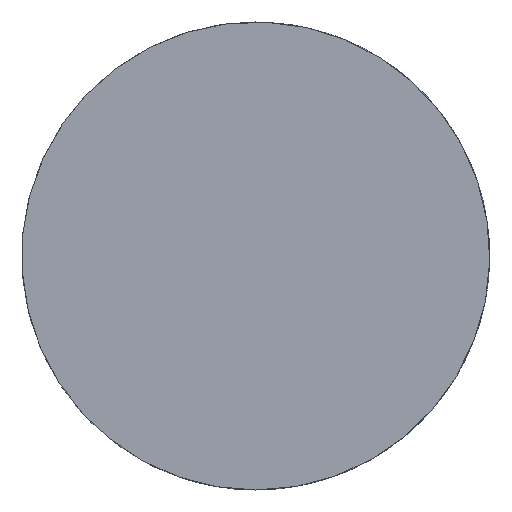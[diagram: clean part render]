
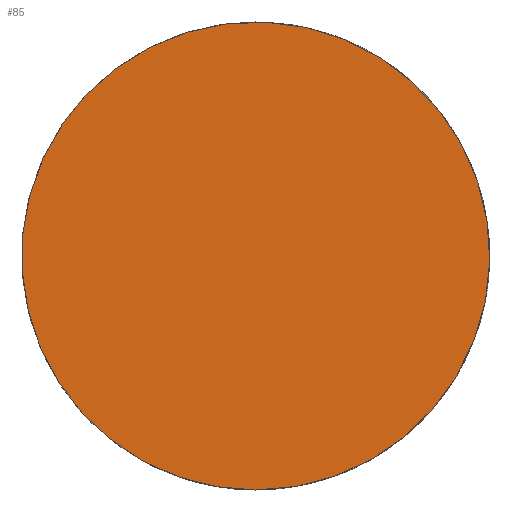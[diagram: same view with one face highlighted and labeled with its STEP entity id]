
A CAD part, front view. The second image highlights one B-rep face of the part: STEP entity #85.
In plain terms, the highlighted planar face has unit normal (0, -1, 0).
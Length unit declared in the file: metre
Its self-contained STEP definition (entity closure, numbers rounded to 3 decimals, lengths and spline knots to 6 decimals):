
#15=CIRCLE('',#106,0.0025);
#31=ORIENTED_EDGE('',*,*,#48,.F.);
#48=EDGE_CURVE('',#56,#56,#15,.F.);
#56=VERTEX_POINT('',#166);
#68=EDGE_LOOP('',(#31));
#75=FACE_BOUND('',#68,.T.);
#80=PLANE('',#107);
#85=ADVANCED_FACE('',(#75),#80,.F.);
#106=AXIS2_PLACEMENT_3D('',#165,#126,#127);
#107=AXIS2_PLACEMENT_3D('',#167,#128,#129);
#126=DIRECTION('',(0.,-1.,0.));
#127=DIRECTION('',(0.,0.,-1.));
#128=DIRECTION('',(0.,1.,0.));
#129=DIRECTION('',(0.,0.,1.));
#165=CARTESIAN_POINT('',(0.,0.038,0.));
#166=CARTESIAN_POINT('',(0.,0.038,-0.0025));
#167=CARTESIAN_POINT('',(0.,0.038,0.));
